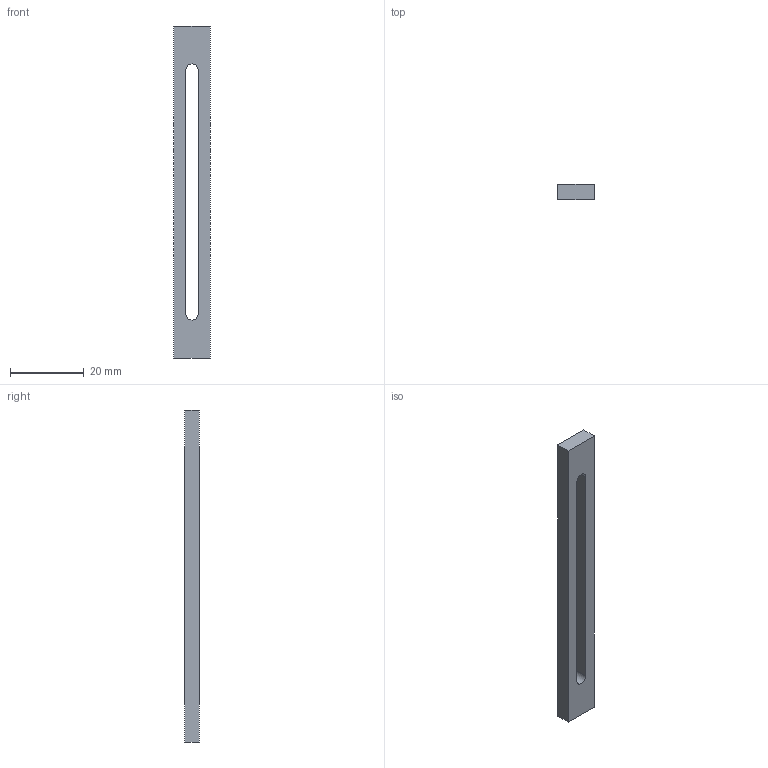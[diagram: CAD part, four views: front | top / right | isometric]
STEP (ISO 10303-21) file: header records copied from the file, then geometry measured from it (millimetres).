
FILE_DESCRIPTION(('Open CASCADE Model'),'2;1');
FILE_NAME('Open CASCADE Shape Model','2026-11-08T04:10:21',('Author'),( 'Open CASCADE'),'Open CASCADE STEP processor 7.8','Open CASCADE 7.8' ,'Unknown');
FILE_SCHEMA(('AUTOMOTIVE_DESIGN { 1 0 10303 214 1 1 1 1 }'));
Length unit declared in the file: millimetre
Products named in the file (1): Open CASCADE STEP translator 7.8 6
Bounding box: 10 x 4 x 90 mm (x, y, z)
Volume: 2666.1 mm3; surface area: 2703.8 mm2
Topology: 1 solids, 1 shells, 10 faces, 24 edges, 16 vertices
Faces by surface type: plane 8, cylinder 2
Entity records: 608 total; most frequent: CARTESIAN_POINT 109, DIRECTION 88, LINE 54, VECTOR 54, ORIENTED_EDGE 48, PCURVE 48, DEFINITIONAL_REPRESENTATION 48, EDGE_CURVE 24
